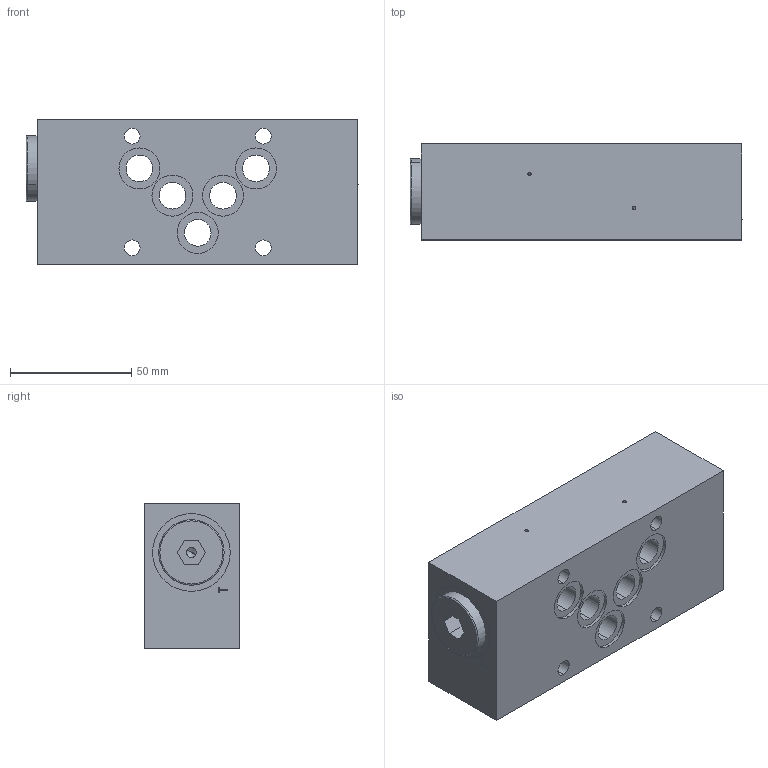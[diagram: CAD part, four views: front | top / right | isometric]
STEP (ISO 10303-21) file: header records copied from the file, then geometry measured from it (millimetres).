
FILE_DESCRIPTION (( 'STEP AP214' ), '1' );
FILE_NAME ('ASGKP10.STEP', '2017-03-20T06:16:22', ( '' ), ( '' ), 'SwSTEP 2.0', 'SolidWorks 2016', '' );
FILE_SCHEMA (( 'AUTOMOTIVE_DESIGN' ));
Length unit declared in the file: millimetre
Products named in the file (1): ASGKP10
Bounding box: 136.7 x 39.5 x 60 mm (x, y, z)
Volume: 281760.4 mm3; surface area: 46120.6 mm2
Topology: 3 solids, 3 shells, 119 faces, 284 edges, 179 vertices
Faces by surface type: cylinder 52, plane 45, cone 14, bspline 6, torus 2
Entity records: 5125 total; most frequent: CARTESIAN_POINT 947, DIRECTION 602, ORIENTED_EDGE 548, EDGE_CURVE 274, AXIS2_PLACEMENT_3D 226, VERTEX_POINT 179, EDGE_LOOP 157, VECTOR 150
